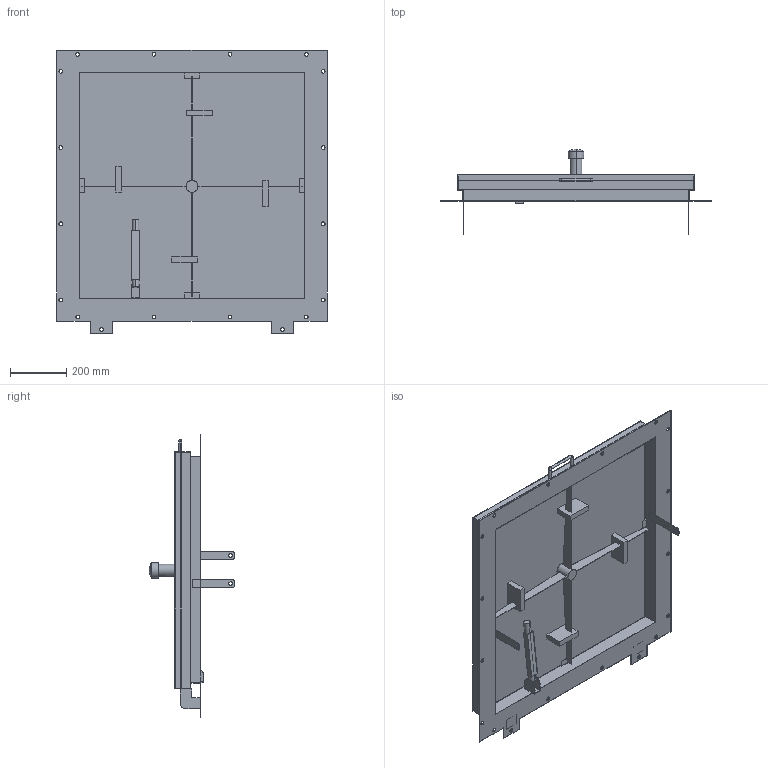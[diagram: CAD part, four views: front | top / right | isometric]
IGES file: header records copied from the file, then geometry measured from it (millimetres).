
Start section:  PTC IGES file: 52427748.igs
Global section: file name: 52427748.igs; native system: Creo Parametric by PTC Inc.; preprocessor: 2022162; author: wep; organization: Unknown; date: 20250805.102647; units: millimetre
Bounding box: 960 x 303 x 1005 mm (x, y, z)
Surface area: 4341745.4 mm2 (no closed solid volume)
Topology: 0 solids, 0 shells, 819 faces, 4428 edges, 4422 vertices
Faces by surface type: bspline 476, extrusion 275, revolution 68
